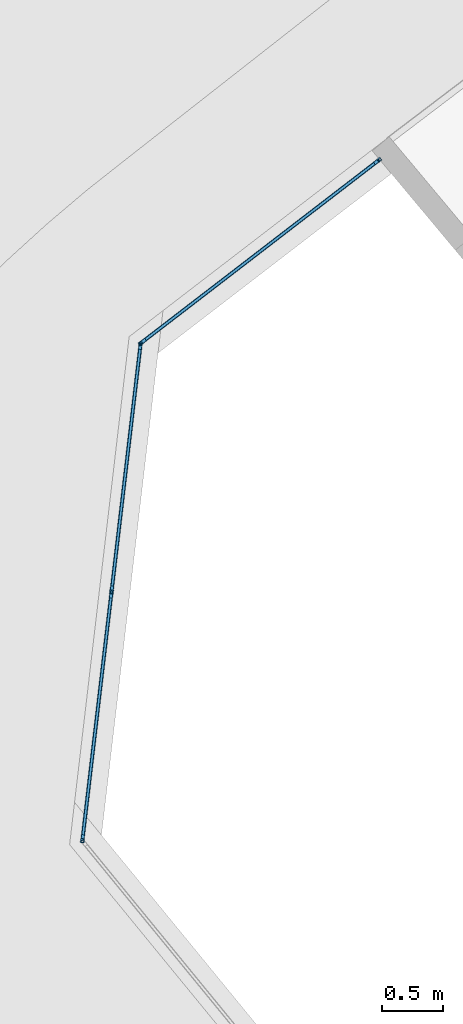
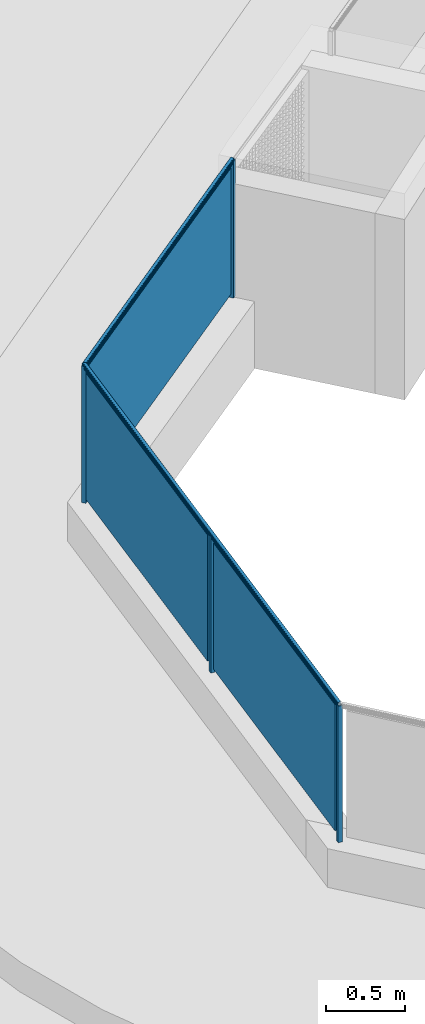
# One storey, part 27 of 75: 9 building element parts, 1 element without a shape of its own.
"""IFC4 building model written with IfcOpenShell, lengths in metres."""

from ifc_helpers import new_model, entity, si_unit, converted_unit, derived_unit, direction, frame, origin_with_axes, place, context, subcontext, project, spatial, polygons, material, type_object, element, aggregate, save


model = new_model("IFC4")

# Units and contexts
model_context = context("Model", 3, precision=1e-05, world=origin_with_axes(), true_north=direction((0.0, 1.0)))
body_context = subcontext(model_context, "Body", "Model", "MODEL_VIEW")
ifc_project = project(units=[si_unit("LENGTHUNIT", "METRE"), si_unit("AREAUNIT", "SQUARE_METRE"), si_unit("VOLUMEUNIT", "CUBIC_METRE"), converted_unit("PLANEANGLEUNIT", "DEGREE", entity("IfcPlaneAngleMeasure", 0.0174532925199), si_unit("PLANEANGLEUNIT", "RADIAN"), dimensions=[0, 0, 0, 0, 0, 0, 0]), converted_unit("TIMEUNIT", "Year", entity("IfcTimeMeasure", 31556926.0), si_unit("TIMEUNIT", "SECOND"), dimensions=[0, 0, 1, 0, 0, 0, 0]), si_unit("MASSUNIT", "GRAM", prefix="KILO"), si_unit("THERMODYNAMICTEMPERATUREUNIT", "DEGREE_CELSIUS"), si_unit("LUMINOUSINTENSITYUNIT", "LUMEN"), si_unit("ENERGYUNIT", "JOULE", prefix="MEGA"), derived_unit("THERMALCONDUCTANCEUNIT", [(si_unit("POWERUNIT", "WATT"), 1), (si_unit("LENGTHUNIT", "METRE"), -1), (si_unit("THERMODYNAMICTEMPERATUREUNIT", "KELVIN"), -1)]), derived_unit("SPECIFICHEATCAPACITYUNIT", [(si_unit("ENERGYUNIT", "JOULE"), 1), (si_unit("MASSUNIT", "GRAM", prefix="KILO"), -1), (si_unit("THERMODYNAMICTEMPERATUREUNIT", "KELVIN"), -1)]), derived_unit("MASSDENSITYUNIT", [(si_unit("MASSUNIT", "GRAM", prefix="KILO"), 1), (si_unit("VOLUMEUNIT", "CUBIC_METRE"), -1)])], contexts=[model_context])

# Site, building, storey
site_placement = place(None, frame((-0.00153261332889, -0.00661245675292, 0.0), z_axis=(0.0, 0.0, 1.0), x_axis=(1.0, 0.0, 0.0)))
site = spatial("IfcSite", under=ifc_project, at=site_placement, Name="Gelände", CompositionType="ELEMENT")
building_placement = place(site_placement, origin_with_axes())
building = spatial("IfcBuilding", under=site, at=building_placement, Name="Gebäude", CompositionType="ELEMENT")
storey_placement = place(building_placement, frame((0.0, 0.0, -0.22), z_axis=(0.0, 0.0, 1.0), x_axis=(1.0, 0.0, 0.0)))
storey = spatial("IfcBuildingStorey", under=building, at=storey_placement, Name="EG", CompositionType="ELEMENT", Elevation=-0.22)

# Railing, building element parts
railing_type = type_object("IfcRailingType", Name="Geländerart", PredefinedType="NOTDEFINED")
railing_placement = place(storey_placement, frame((-12.1608341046, 23.557810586, 0.523948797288), z_axis=(0.0, 0.0, 1.0), x_axis=(1.0, 0.0, 0.0)))
railing = element("IfcRailing", 1, at=railing_placement, inside=storey, type_object=railing_type, Name="Geländer - 001", PredefinedType="NOTDEFINED")
ifc_material_1 = material(Name="Aluminium")
building_element_part_1_placement = place(railing_placement, origin_with_axes())
building_element_part_1 = element("IfcBuildingElementPart", 2, at=building_element_part_1_placement, material=ifc_material_1, Name="Aluminium", PredefinedType="NOTDEFINED", context=body_context, shape_type="Tessellation", body=[
    polygons([(0.0399227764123, -0.076525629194, 0.0), (0.0582099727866, -0.10030752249, 0.0), (0.0582099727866, -0.10030752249, 1.06), (0.0399227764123, -0.076525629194, 1.06), (0.0637046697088, -0.0582384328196, 0.0), (0.0819918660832, -0.0820203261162, 0.0), (0.0469342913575, -0.0774414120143, 0.0), (0.059125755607, -0.0932960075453, 0.0), (0.074980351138, -0.0811045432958, 0.0), (0.0627888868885, -0.0652499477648, 0.0), (0.0819918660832, -0.0820203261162, 1.06), (0.0637046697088, -0.0582384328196, 1.06), (0.0469342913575, -0.0774414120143, 1.06), (0.0627888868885, -0.0652499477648, 1.06), (0.074980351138, -0.0811045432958, 1.06), (0.059125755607, -0.0932960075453, 1.06)], [[[1, 2, 3, 4]], [[1, 5, 6, 2], [7, 8, 9, 10]], [[2, 6, 11, 3]], [[4, 3, 11, 12], [13, 14, 15, 16]], [[5, 1, 4, 12]], [[6, 5, 12, 11]], [[8, 7, 13, 16]], [[9, 8, 16, 15]], [[10, 9, 15, 14]], [[7, 10, 14, 13]]], closed=True),
])
building_element_part_2_placement = place(railing_placement, origin_with_axes())
building_element_part_2 = element("IfcBuildingElementPart", 3, at=building_element_part_2_placement, material=ifc_material_1, Name="Aluminium", PredefinedType="NOTDEFINED", context=body_context, shape_type="Tessellation", body=[
    polygons([(-1.91102656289, -1.57671710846, 0.0), (-1.89273936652, -1.60049900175, 0.0), (-1.89273936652, -1.60049900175, 1.06), (-1.91102656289, -1.57671710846, 1.06), (-1.88724466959, -1.55842991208, 0.0), (-1.86895747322, -1.58221180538, 0.0), (-1.90401504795, -1.57763289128, 0.0), (-1.8918235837, -1.59348748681, 0.0), (-1.87596898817, -1.58129602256, 0.0), (-1.88816045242, -1.56544142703, 0.0), (-1.86895747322, -1.58221180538, 1.06), (-1.88724466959, -1.55842991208, 1.06), (-1.90401504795, -1.57763289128, 1.06), (-1.88816045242, -1.56544142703, 1.06), (-1.87596898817, -1.58129602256, 1.06), (-1.8918235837, -1.59348748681, 1.06)], [[[1, 2, 3, 4]], [[1, 5, 6, 2], [7, 8, 9, 10]], [[2, 6, 11, 3]], [[4, 3, 11, 12], [13, 14, 15, 16]], [[5, 1, 4, 12]], [[6, 5, 12, 11]], [[8, 7, 13, 16]], [[9, 8, 16, 15]], [[10, 9, 15, 14]], [[7, 10, 14, 13]]], closed=True),
])
building_element_part_3_placement = place(railing_placement, origin_with_axes())
building_element_part_3 = element("IfcBuildingElementPart", 4, at=building_element_part_3_placement, material=ifc_material_1, Name="Aluminium", PredefinedType="NOTDEFINED", context=body_context, shape_type="Tessellation", body=[
    polygons([(-2.38353869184, -5.66011663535, 0.0), (-2.35374279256, -5.66361011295, 0.0), (-2.35374279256, -5.66361011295, 1.06), (-2.38353869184, -5.66011663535, 1.06), (-2.38004521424, -5.63032073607, 0.0), (-2.35024931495, -5.63381421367, 0.0), (-2.37799046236, -5.6557328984, 0.0), (-2.3581265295, -5.65806188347, 0.0), (-2.35579754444, -5.63819795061, 0.0), (-2.37566147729, -5.63586896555, 0.0), (-2.35024931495, -5.63381421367, 1.06), (-2.38004521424, -5.63032073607, 1.06), (-2.37799046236, -5.6557328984, 1.06), (-2.37566147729, -5.63586896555, 1.06), (-2.35579754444, -5.63819795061, 1.06), (-2.3581265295, -5.65806188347, 1.06)], [[[1, 2, 3, 4]], [[1, 5, 6, 2], [7, 8, 9, 10]], [[2, 6, 11, 3]], [[4, 3, 11, 12], [13, 14, 15, 16]], [[5, 1, 4, 12]], [[6, 5, 12, 11]], [[8, 7, 13, 16]], [[9, 8, 16, 15]], [[10, 9, 15, 14]], [[7, 10, 14, 13]]], closed=True),
])
building_element_part_4_placement = place(railing_placement, origin_with_axes())
building_element_part_4 = element("IfcBuildingElementPart", 5, at=building_element_part_4_placement, material=ifc_material_1, Name="Aluminium", PredefinedType="NOTDEFINED", context=body_context, shape_type="Tessellation", body=[
    polygons([(0.0547792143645, -0.0712385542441, 1.07636363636), (0.054635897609, -0.0710521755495, 1.07634109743), (-1.899782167, -1.57391094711, 1.07634109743), (-1.89956020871, -1.57403685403, 1.07636363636), (0.0547792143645, -0.0712385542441, 1.07818181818), (0.0548168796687, -0.0712875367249, 1.07820551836), (0.0568268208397, -0.0739013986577, 1.0792391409), (0.0588658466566, -0.0765530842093, 1.07983921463), (0.0609184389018, -0.0792224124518, 1.08000117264), (0.0609573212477, -0.0792729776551, 1.08), (0.0609962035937, -0.0793235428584, 1.08000117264), (0.0630487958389, -0.0819928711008, 1.07983921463), (0.0650878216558, -0.0846445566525, 1.0792391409), (0.0670977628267, -0.0872584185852, 1.07820551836), (0.0671354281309, -0.0873074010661, 1.07818181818), (0.0671354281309, -0.087307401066, 1.07636363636), (0.0672787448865, -0.0874937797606, 1.07634109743), (0.067809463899, -0.0881839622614, 1.0761115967), (0.0683158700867, -0.0888425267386, 1.07565956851), (0.0687825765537, -0.0894494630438, 1.07499874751), (0.0691954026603, -0.0899863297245, 1.0741492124), (0.0695418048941, -0.0904368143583, 1.07313677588), (0.0698112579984, -0.0907872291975, 1.07199220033), (0.0699955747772, -0.0910269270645, 1.07075026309), (0.0700891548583, -0.091148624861, 1.06944869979), (0.0700891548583, -0.091148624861, 1.06812705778), (0.0699955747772, -0.0910269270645, 1.06682549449), (0.0698112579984, -0.0907872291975, 1.06558355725), (0.0695418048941, -0.0904368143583, 1.06443898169), (0.0691954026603, -0.0899863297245, 1.06342654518), (0.0687825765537, -0.0894494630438, 1.06257701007), (0.0683158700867, -0.0888425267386, 1.06191618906), (0.067809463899, -0.0881839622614, 1.06146416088), (0.0672787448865, -0.0874937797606, 1.06123466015), (0.0671354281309, -0.087307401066, 1.06121212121), (0.0671354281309, -0.0873074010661, 1.05818181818), (0.0670385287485, -0.0871813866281, 1.05810011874), (0.0665871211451, -0.0865943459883, 1.05758389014), (0.0661791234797, -0.0860637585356, 1.05688326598), (0.0658269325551, -0.0856057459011, 1.05601953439), (0.0655412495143, -0.085234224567, 1.05501893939), (0.0653307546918, -0.084960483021, 1.05391188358), (0.0652018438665, -0.0847928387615, 1.05273200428), (0.0651584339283, -0.0847363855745, 1.05151515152), (0.0652018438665, -0.0847928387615, 1.05029829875), (0.0653307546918, -0.084960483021, 1.04911841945), (0.0655412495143, -0.085234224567, 1.04801136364), (0.0658269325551, -0.0856057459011, 1.04701076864), (0.0661791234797, -0.0860637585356, 1.04614703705), (0.0665871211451, -0.0865943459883, 1.04544641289), (0.0670385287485, -0.0871813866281, 1.04493018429), (0.0671354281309, -0.0873074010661, 1.04484848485), (0.0671354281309, -0.0873074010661, 1.04), (0.0547792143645, -0.0712385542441, 1.04), (0.0547792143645, -0.0712385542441, 1.04484848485), (0.0548761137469, -0.071364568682, 1.04493018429), (0.0553275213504, -0.0719516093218, 1.04544641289), (0.0557355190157, -0.0724821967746, 1.04614703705), (0.0560877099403, -0.0729402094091, 1.04701076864), (0.0563733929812, -0.0733117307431, 1.04801136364), (0.0565838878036, -0.0735854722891, 1.04911841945), (0.056712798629, -0.0737531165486, 1.05029829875), (0.0567562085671, -0.0738095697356, 1.05151515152), (0.056712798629, -0.0737531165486, 1.05273200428), (0.0565838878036, -0.0735854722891, 1.05391188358), (0.0563733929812, -0.0733117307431, 1.05501893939), (0.0560877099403, -0.0729402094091, 1.05601953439), (0.0557355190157, -0.0724821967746, 1.05688326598), (0.0553275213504, -0.0719516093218, 1.05758389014), (0.0548761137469, -0.071364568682, 1.05810011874), (0.0547792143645, -0.0712385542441, 1.05818181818), (0.0547792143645, -0.0712385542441, 1.06121212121), (0.054635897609, -0.0710521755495, 1.06123466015), (0.0541051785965, -0.0703619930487, 1.06146416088), (0.0535987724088, -0.0697034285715, 1.06191618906), (0.0531320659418, -0.0690964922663, 1.06257701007), (0.0527192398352, -0.0685596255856, 1.06342654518), (0.0523728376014, -0.0681091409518, 1.06443898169), (0.052103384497, -0.0677587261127, 1.06558355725), (0.0519190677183, -0.0675190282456, 1.06682549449), (0.0518254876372, -0.0673973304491, 1.06812705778), (0.0518254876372, -0.0673973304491, 1.06944869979), (0.0519190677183, -0.0675190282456, 1.07075026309), (0.052103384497, -0.0677587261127, 1.07199220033), (0.0523728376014, -0.0681091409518, 1.07313677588), (0.0527192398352, -0.0685596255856, 1.0741492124), (0.0531320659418, -0.0690964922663, 1.07499874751), (0.0535987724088, -0.0697034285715, 1.07565956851), (0.0541051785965, -0.0703619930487, 1.0761115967), (-1.90060410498, -1.57344469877, 1.0761115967), (-1.90138838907, -1.57299980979, 1.07565956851), (-1.9021111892, -1.57258979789, 1.07499874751), (-1.90275054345, -1.57222712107, 1.0741492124), (-1.90328702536, -1.57192279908, 1.07313677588), (-1.90370433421, -1.57168607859, 1.07199220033), (-1.90398979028, -1.57152415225, 1.07075026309), (-1.90413472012, -1.57144194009, 1.06944869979), (-1.90413472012, -1.57144194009, 1.06812705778), (-1.90398979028, -1.57152415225, 1.06682549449), (-1.90370433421, -1.57168607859, 1.06558355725), (-1.90328702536, -1.57192279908, 1.06443898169), (-1.90275054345, -1.57222712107, 1.06342654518), (-1.9021111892, -1.57258979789, 1.06257701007), (-1.90138838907, -1.57299980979, 1.06191618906), (-1.90060410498, -1.57344469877, 1.06146416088), (-1.899782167, -1.57391094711, 1.06123466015), (-1.89956020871, -1.57403685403, 1.06121212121), (-1.89956020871, -1.57403685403, 1.05818181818), (-1.89941013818, -1.57412198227, 1.05810011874), (-1.89871103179, -1.57451855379, 1.05758389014), (-1.89807915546, -1.57487698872, 1.05688326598), (-1.89753370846, -1.5751863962, 1.05601953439), (-1.89709126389, -1.57543737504, 1.05501893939), (-1.89676526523, -1.57562229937, 1.05391188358), (-1.89656561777, -1.57573555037, 1.05273200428), (-1.8964983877, -1.57577368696, 1.05151515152), (-1.89656561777, -1.57573555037, 1.05029829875), (-1.89676526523, -1.57562229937, 1.04911841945), (-1.89709126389, -1.57543737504, 1.04801136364), (-1.89753370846, -1.5751863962, 1.04701076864), (-1.89807915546, -1.57487698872, 1.04614703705), (-1.89871103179, -1.57451855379, 1.04544641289), (-1.89941013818, -1.57412198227, 1.04493018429), (-1.89956020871, -1.57403685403, 1.04484848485), (-1.89956020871, -1.57403685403, 1.04), (-1.88042382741, -1.58489205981, 1.04), (-1.88042382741, -1.58489205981, 1.04484848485), (-1.88057389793, -1.58480693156, 1.04493018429), (-1.88127300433, -1.58441036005, 1.04544641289), (-1.88190488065, -1.58405192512, 1.04614703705), (-1.88245032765, -1.58374251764, 1.04701076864), (-1.88289277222, -1.5834915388, 1.04801136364), (-1.88321877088, -1.58330661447, 1.04911841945), (-1.88341841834, -1.58319336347, 1.05029829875), (-1.88348564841, -1.58315522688, 1.05151515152), (-1.88341841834, -1.58319336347, 1.05273200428), (-1.88321877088, -1.58330661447, 1.05391188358), (-1.88289277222, -1.5834915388, 1.05501893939), (-1.88245032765, -1.58374251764, 1.05601953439), (-1.88190488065, -1.58405192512, 1.05688326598), (-1.88127300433, -1.58441036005, 1.05758389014), (-1.88057389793, -1.58480693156, 1.05810011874), (-1.88042382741, -1.58489205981, 1.05818181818), (-1.88042382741, -1.58489205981, 1.06121212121), (-1.88020186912, -1.58501796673, 1.06123466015), (-1.87937993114, -1.58548421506, 1.06146416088), (-1.87859564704, -1.58592910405, 1.06191618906), (-1.87787284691, -1.58633911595, 1.06257701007), (-1.87723349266, -1.58670179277, 1.06342654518), (-1.87669701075, -1.58700611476, 1.06443898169), (-1.8762797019, -1.58724283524, 1.06558355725), (-1.87599424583, -1.58740476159, 1.06682549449), (-1.87584931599, -1.58748697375, 1.06812705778), (-1.87584931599, -1.58748697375, 1.06944869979), (-1.87599424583, -1.58740476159, 1.07075026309), (-1.8762797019, -1.58724283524, 1.07199220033), (-1.87669701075, -1.58700611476, 1.07313677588), (-1.87723349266, -1.58670179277, 1.0741492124), (-1.87787284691, -1.58633911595, 1.07499874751), (-1.87859564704, -1.58592910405, 1.07565956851), (-1.87937993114, -1.58548421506, 1.0761115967), (-1.88020186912, -1.58501796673, 1.07634109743), (-1.88042382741, -1.58489205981, 1.07636363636), (-1.88042382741, -1.58489205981, 1.07818181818), (-1.88048216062, -1.58485897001, 1.07820551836), (-1.88359500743, -1.58309319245, 1.0792391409), (-1.88675289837, -1.58130186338, 1.07983921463), (-1.88993179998, -1.57949861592, 1.08000117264), (-1.88999201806, -1.57946445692, 1.08), (-1.89005223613, -1.57943029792, 1.08000117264), (-1.89323113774, -1.57762705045, 1.07983921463), (-1.89638902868, -1.57583572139, 1.0792391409), (-1.89950187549, -1.57406994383, 1.07820551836), (-1.89956020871, -1.57403685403, 1.07818181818)], [[[1, 2, 3, 4]], [[1, 5, 6, 7, 8, 9, 10, 11, 12, 13, 14, 15, 16, 17, 18, 19, 20, 21, 22, 23, 24, 25, 26, 27, 28, 29, 30, 31, 32, 33, 34, 35, 36, 37, 38, 39, 40, 41, 42, 43, 44, 45, 46, 47, 48, 49, 50, 51, 52, 53, 54, 55, 56, 57, 58, 59, 60, 61, 62, 63, 64, 65, 66, 67, 68, 69, 70, 71, 72, 73, 74, 75, 76, 77, 78, 79, 80, 81, 82, 83, 84, 85, 86, 87, 88, 89, 2]], [[2, 89, 90, 3]], [[4, 3, 90, 91, 92, 93, 94, 95, 96, 97, 98, 99, 100, 101, 102, 103, 104, 105, 106, 107, 108, 109, 110, 111, 112, 113, 114, 115, 116, 117, 118, 119, 120, 121, 122, 123, 124, 125, 126, 127, 128, 129, 130, 131, 132, 133, 134, 135, 136, 137, 138, 139, 140, 141, 142, 143, 144, 145, 146, 147, 148, 149, 150, 151, 152, 153, 154, 155, 156, 157, 158, 159, 160, 161, 162, 163, 164, 165, 166, 167, 168, 169, 170, 171, 172, 173, 174]], [[5, 1, 4, 174]], [[6, 5, 174, 173]], [[7, 6, 173, 172]], [[8, 7, 172, 171]], [[9, 8, 171, 170]], [[10, 9, 170, 169]], [[11, 10, 169, 168]], [[12, 11, 168, 167]], [[13, 12, 167, 166]], [[14, 13, 166, 165]], [[15, 14, 165, 164]], [[16, 15, 164, 163]], [[17, 16, 163, 162]], [[18, 17, 162, 161]], [[19, 18, 161, 160]], [[20, 19, 160, 159]], [[21, 20, 159, 158]], [[22, 21, 158, 157]], [[23, 22, 157, 156]], [[24, 23, 156, 155]], [[25, 24, 155, 154]], [[26, 25, 154, 153]], [[27, 26, 153, 152]], [[28, 27, 152, 151]], [[29, 28, 151, 150]], [[30, 29, 150, 149]], [[31, 30, 149, 148]], [[32, 31, 148, 147]], [[33, 32, 147, 146]], [[34, 33, 146, 145]], [[35, 34, 145, 144]], [[36, 35, 144, 143]], [[37, 36, 143, 142]], [[38, 37, 142, 141]], [[39, 38, 141, 140]], [[40, 39, 140, 139]], [[41, 40, 139, 138]], [[42, 41, 138, 137]], [[43, 42, 137, 136]], [[44, 43, 136, 135]], [[45, 44, 135, 134]], [[46, 45, 134, 133]], [[47, 46, 133, 132]], [[48, 47, 132, 131]], [[49, 48, 131, 130]], [[50, 49, 130, 129]], [[51, 50, 129, 128]], [[52, 51, 128, 127]], [[53, 52, 127, 126]], [[54, 53, 126, 125]], [[55, 54, 125, 124]], [[56, 55, 124, 123]], [[57, 56, 123, 122]], [[58, 57, 122, 121]], [[59, 58, 121, 120]], [[60, 59, 120, 119]], [[61, 60, 119, 118]], [[62, 61, 118, 117]], [[63, 62, 117, 116]], [[64, 63, 116, 115]], [[65, 64, 115, 114]], [[66, 65, 114, 113]], [[67, 66, 113, 112]], [[68, 67, 112, 111]], [[69, 68, 111, 110]], [[70, 69, 110, 109]], [[71, 70, 109, 108]], [[72, 71, 108, 107]], [[73, 72, 107, 106]], [[74, 73, 106, 105]], [[75, 74, 105, 104]], [[76, 75, 104, 103]], [[77, 76, 103, 102]], [[78, 77, 102, 101]], [[79, 78, 101, 100]], [[80, 79, 100, 99]], [[81, 80, 99, 98]], [[82, 81, 98, 97]], [[83, 82, 97, 96]], [[84, 83, 96, 95]], [[85, 84, 95, 94]], [[86, 85, 94, 93]], [[87, 86, 93, 92]], [[88, 87, 92, 91]], [[89, 88, 91, 90]]], closed=True),
])
ifc_material_2 = material(Name="Zaun")
building_element_part_5_placement = place(railing_placement, origin_with_axes())
building_element_part_5 = element("IfcBuildingElementPart", 6, at=building_element_part_5_placement, material=ifc_material_2, Name="Zaun", PredefinedType="NOTDEFINED", context=body_context, shape_type="Tessellation", body=[
    polygons([(-1.8442597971, -1.55691309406, 0.05), (0.027416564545, -0.117678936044, 0.05), (0.027416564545, -0.117678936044, 1.03), (-1.8442597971, -1.55691309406, 1.03), (0.0152251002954, -0.101824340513, 0.05), (-1.85645126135, -1.54105849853, 0.05), (0.0152251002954, -0.101824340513, 1.03), (-1.85645126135, -1.54105849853, 1.03)], [[[1, 2, 3, 4]], [[5, 2, 1, 6]], [[7, 3, 2, 5]], [[4, 3, 7, 8]], [[1, 4, 8, 6]], [[7, 5, 6, 8]]], closed=True),
])
building_element_part_6_placement = place(railing_placement, origin_with_axes())
building_element_part_6 = element("IfcBuildingElementPart", 7, at=building_element_part_6_placement, material=ifc_material_1, Name="Aluminium", PredefinedType="NOTDEFINED", context=body_context, shape_type="Tessellation", body=[
    polygons([(-1.89956020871, -1.57403685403, 1.07636363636), (-1.899782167, -1.57391094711, 1.07634109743), (-2.37770623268, -5.65012924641, 1.07634109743), (-2.3774611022, -5.65005751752, 1.07636363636), (-1.89956020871, -1.57403685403, 1.07818181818), (-1.89950187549, -1.57406994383, 1.07820551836), (-1.89638902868, -1.57583572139, 1.0792391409), (-1.89323113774, -1.57762705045, 1.07983921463), (-1.89005223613, -1.57943029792, 1.08000117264), (-1.88999201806, -1.57946445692, 1.08), (-1.88993179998, -1.57949861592, 1.08000117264), (-1.88675289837, -1.58130186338, 1.07983921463), (-1.88359500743, -1.58309319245, 1.0792391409), (-1.88048216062, -1.58485897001, 1.07820551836), (-1.88042382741, -1.58489205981, 1.07818181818), (-1.88042382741, -1.58489205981, 1.07636363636), (-1.88020186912, -1.58501796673, 1.07634109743), (-1.87937993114, -1.58548421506, 1.0761115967), (-1.87859564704, -1.58592910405, 1.07565956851), (-1.87787284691, -1.58633911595, 1.07499874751), (-1.87723349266, -1.58670179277, 1.0741492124), (-1.87669701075, -1.58700611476, 1.07313677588), (-1.8762797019, -1.58724283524, 1.07199220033), (-1.87599424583, -1.58740476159, 1.07075026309), (-1.87584931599, -1.58748697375, 1.06944869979), (-1.87584931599, -1.58748697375, 1.06812705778), (-1.87599424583, -1.58740476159, 1.06682549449), (-1.8762797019, -1.58724283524, 1.06558355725), (-1.87669701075, -1.58700611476, 1.06443898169), (-1.87723349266, -1.58670179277, 1.06342654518), (-1.87787284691, -1.58633911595, 1.06257701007), (-1.87859564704, -1.58592910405, 1.06191618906), (-1.87937993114, -1.58548421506, 1.06146416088), (-1.88020186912, -1.58501796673, 1.06123466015), (-1.88042382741, -1.58489205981, 1.06121212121), (-1.88042382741, -1.58489205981, 1.05818181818), (-1.88057389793, -1.58480693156, 1.05810011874), (-1.88127300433, -1.58441036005, 1.05758389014), (-1.88190488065, -1.58405192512, 1.05688326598), (-1.88245032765, -1.58374251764, 1.05601953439), (-1.88289277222, -1.5834915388, 1.05501893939), (-1.88321877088, -1.58330661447, 1.05391188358), (-1.88341841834, -1.58319336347, 1.05273200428), (-1.88348564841, -1.58315522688, 1.05151515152), (-1.88341841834, -1.58319336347, 1.05029829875), (-1.88321877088, -1.58330661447, 1.04911841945), (-1.88289277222, -1.5834915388, 1.04801136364), (-1.88245032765, -1.58374251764, 1.04701076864), (-1.88190488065, -1.58405192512, 1.04614703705), (-1.88127300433, -1.58441036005, 1.04544641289), (-1.88057389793, -1.58480693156, 1.04493018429), (-1.88042382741, -1.58489205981, 1.04484848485), (-1.88042382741, -1.58489205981, 1.04), (-1.89956020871, -1.57403685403, 1.04), (-1.89956020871, -1.57403685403, 1.04484848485), (-1.89941013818, -1.57412198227, 1.04493018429), (-1.89871103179, -1.57451855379, 1.04544641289), (-1.89807915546, -1.57487698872, 1.04614703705), (-1.89753370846, -1.5751863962, 1.04701076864), (-1.89709126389, -1.57543737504, 1.04801136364), (-1.89676526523, -1.57562229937, 1.04911841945), (-1.89656561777, -1.57573555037, 1.05029829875), (-1.8964983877, -1.57577368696, 1.05151515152), (-1.89656561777, -1.57573555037, 1.05273200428), (-1.89676526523, -1.57562229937, 1.05391188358), (-1.89709126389, -1.57543737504, 1.05501893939), (-1.89753370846, -1.5751863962, 1.05601953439), (-1.89807915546, -1.57487698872, 1.05688326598), (-1.89871103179, -1.57451855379, 1.05758389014), (-1.89941013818, -1.57412198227, 1.05810011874), (-1.89956020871, -1.57403685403, 1.05818181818), (-1.89956020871, -1.57403685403, 1.06121212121), (-1.899782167, -1.57391094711, 1.06123466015), (-1.90060410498, -1.57344469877, 1.06146416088), (-1.90138838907, -1.57299980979, 1.06191618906), (-1.9021111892, -1.57258979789, 1.06257701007), (-1.90275054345, -1.57222712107, 1.06342654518), (-1.90328702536, -1.57192279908, 1.06443898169), (-1.90370433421, -1.57168607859, 1.06558355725), (-1.90398979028, -1.57152415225, 1.06682549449), (-1.90413472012, -1.57144194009, 1.06812705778), (-1.90413472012, -1.57144194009, 1.06944869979), (-1.90398979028, -1.57152415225, 1.07075026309), (-1.90370433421, -1.57168607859, 1.07199220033), (-1.90328702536, -1.57192279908, 1.07313677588), (-1.90275054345, -1.57222712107, 1.0741492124), (-1.9021111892, -1.57258979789, 1.07499874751), (-1.90138838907, -1.57299980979, 1.07565956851), (-1.90060410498, -1.57344469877, 1.0761115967), (-2.37861398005, -5.65039486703, 1.0761115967), (-2.3794801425, -5.65064831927, 1.07565956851), (-2.38027840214, -5.65088190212, 1.07499874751), (-2.38098450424, -5.65108851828, 1.0741492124), (-2.38157699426, -5.65126188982, 1.07313677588), (-2.38203786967, -5.65139674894, 1.07199220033), (-2.38235312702, -5.65148899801, 1.07075026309), (-2.38251318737, -5.6515358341, 1.06944869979), (-2.38251318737, -5.6515358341, 1.06812705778), (-2.38235312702, -5.65148899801, 1.06682549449), (-2.38203786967, -5.65139674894, 1.06558355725), (-2.38157699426, -5.65126188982, 1.06443898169), (-2.38098450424, -5.65108851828, 1.06342654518), (-2.38027840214, -5.65088190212, 1.06257701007), (-2.3794801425, -5.65064831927, 1.06191618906), (-2.37861398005, -5.65039486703, 1.06146416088), (-2.37770623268, -5.65012924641, 1.06123466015), (-2.3774611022, -5.65005751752, 1.06121212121), (-2.3774611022, -5.65005751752, 1.05818181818), (-2.37729536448, -5.65000902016, 1.05810011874), (-2.37652327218, -5.64978309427, 1.05758389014), (-2.3758254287, -5.64957889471, 1.05688326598), (-2.37522303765, -5.64940262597, 1.05601953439), (-2.37473440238, -5.64925964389, 1.05501893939), (-2.37437436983, -5.64915429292, 1.05391188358), (-2.3741538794, -5.64908977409, 1.05273200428), (-2.37407963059, -5.64906804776, 1.05151515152), (-2.3741538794, -5.64908977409, 1.05029829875), (-2.37437436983, -5.64915429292, 1.04911841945), (-2.37473440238, -5.64925964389, 1.04801136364), (-2.37522303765, -5.64940262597, 1.04701076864), (-2.3758254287, -5.64957889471, 1.04614703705), (-2.37652327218, -5.64978309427, 1.04544641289), (-2.37729536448, -5.65000902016, 1.04493018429), (-2.3774611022, -5.65005751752, 1.04484848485), (-2.3774611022, -5.65005751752, 1.04), (-2.35632690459, -5.64387333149, 1.04), (-2.35632690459, -5.64387333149, 1.04484848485), (-2.35649264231, -5.64392182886, 1.04493018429), (-2.35726473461, -5.64414775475, 1.04544641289), (-2.3579625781, -5.64435195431, 1.04614703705), (-2.35856496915, -5.64452822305, 1.04701076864), (-2.35905360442, -5.64467120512, 1.04801136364), (-2.35941363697, -5.6447765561, 1.04911841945), (-2.3596341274, -5.64484107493, 1.05029829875), (-2.35970837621, -5.64486280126, 1.05151515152), (-2.3596341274, -5.64484107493, 1.05273200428), (-2.35941363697, -5.6447765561, 1.05391188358), (-2.35905360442, -5.64467120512, 1.05501893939), (-2.35856496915, -5.64452822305, 1.05601953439), (-2.3579625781, -5.64435195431, 1.05688326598), (-2.35726473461, -5.64414775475, 1.05758389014), (-2.35649264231, -5.64392182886, 1.05810011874), (-2.35632690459, -5.64387333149, 1.05818181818), (-2.35632690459, -5.64387333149, 1.06121212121), (-2.35608177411, -5.64380160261, 1.06123466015), (-2.35517402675, -5.64353598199, 1.06146416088), (-2.35430786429, -5.64328252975, 1.06191618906), (-2.35350960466, -5.6430489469, 1.06257701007), (-2.35280350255, -5.64284233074, 1.06342654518), (-2.35221101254, -5.6426689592, 1.06443898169), (-2.35175013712, -5.64253410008, 1.06558355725), (-2.35143487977, -5.642441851, 1.06682549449), (-2.35127481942, -5.64239501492, 1.06812705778), (-2.35127481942, -5.64239501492, 1.06944869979), (-2.35143487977, -5.642441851, 1.07075026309), (-2.35175013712, -5.64253410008, 1.07199220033), (-2.35221101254, -5.6426689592, 1.07313677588), (-2.35280350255, -5.64284233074, 1.0741492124), (-2.35350960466, -5.6430489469, 1.07499874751), (-2.35430786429, -5.64328252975, 1.07565956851), (-2.35517402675, -5.64353598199, 1.0761115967), (-2.35608177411, -5.64380160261, 1.07634109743), (-2.35632690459, -5.64387333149, 1.07636363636), (-2.35632690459, -5.64387333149, 1.07818181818), (-2.35639132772, -5.64389218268, 1.07820551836), (-2.35982915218, -5.64489814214, 1.0792391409), (-2.36331672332, -5.64591865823, 1.07983921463), (-2.36682749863, -5.64694596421, 1.08000117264), (-2.3668940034, -5.64696542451, 1.08), (-2.36696050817, -5.64698488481, 1.08000117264), (-2.37047128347, -5.64801219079, 1.07983921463), (-2.37395885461, -5.64903270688, 1.0792391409), (-2.37739667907, -5.65003866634, 1.07820551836), (-2.3774611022, -5.65005751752, 1.07818181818)], [[[1, 2, 3, 4]], [[1, 5, 6, 7, 8, 9, 10, 11, 12, 13, 14, 15, 16, 17, 18, 19, 20, 21, 22, 23, 24, 25, 26, 27, 28, 29, 30, 31, 32, 33, 34, 35, 36, 37, 38, 39, 40, 41, 42, 43, 44, 45, 46, 47, 48, 49, 50, 51, 52, 53, 54, 55, 56, 57, 58, 59, 60, 61, 62, 63, 64, 65, 66, 67, 68, 69, 70, 71, 72, 73, 74, 75, 76, 77, 78, 79, 80, 81, 82, 83, 84, 85, 86, 87, 88, 89, 2]], [[2, 89, 90, 3]], [[4, 3, 90, 91, 92, 93, 94, 95, 96, 97, 98, 99, 100, 101, 102, 103, 104, 105, 106, 107, 108, 109, 110, 111, 112, 113, 114, 115, 116, 117, 118, 119, 120, 121, 122, 123, 124, 125, 126, 127, 128, 129, 130, 131, 132, 133, 134, 135, 136, 137, 138, 139, 140, 141, 142, 143, 144, 145, 146, 147, 148, 149, 150, 151, 152, 153, 154, 155, 156, 157, 158, 159, 160, 161, 162, 163, 164, 165, 166, 167, 168, 169, 170, 171, 172, 173, 174]], [[5, 1, 4, 174]], [[6, 5, 174, 173]], [[7, 6, 173, 172]], [[8, 7, 172, 171]], [[9, 8, 171, 170]], [[10, 9, 170, 169]], [[11, 10, 169, 168]], [[12, 11, 168, 167]], [[13, 12, 167, 166]], [[14, 13, 166, 165]], [[15, 14, 165, 164]], [[16, 15, 164, 163]], [[17, 16, 163, 162]], [[18, 17, 162, 161]], [[19, 18, 161, 160]], [[20, 19, 160, 159]], [[21, 20, 159, 158]], [[22, 21, 158, 157]], [[23, 22, 157, 156]], [[24, 23, 156, 155]], [[25, 24, 155, 154]], [[26, 25, 154, 153]], [[27, 26, 153, 152]], [[28, 27, 152, 151]], [[29, 28, 151, 150]], [[30, 29, 150, 149]], [[31, 30, 149, 148]], [[32, 31, 148, 147]], [[33, 32, 147, 146]], [[34, 33, 146, 145]], [[35, 34, 145, 144]], [[36, 35, 144, 143]], [[37, 36, 143, 142]], [[38, 37, 142, 141]], [[39, 38, 141, 140]], [[40, 39, 140, 139]], [[41, 40, 139, 138]], [[42, 41, 138, 137]], [[43, 42, 137, 136]], [[44, 43, 136, 135]], [[45, 44, 135, 134]], [[46, 45, 134, 133]], [[47, 46, 133, 132]], [[48, 47, 132, 131]], [[49, 48, 131, 130]], [[50, 49, 130, 129]], [[51, 50, 129, 128]], [[52, 51, 128, 127]], [[53, 52, 127, 126]], [[54, 53, 126, 125]], [[55, 54, 125, 124]], [[56, 55, 124, 123]], [[57, 56, 123, 122]], [[58, 57, 122, 121]], [[59, 58, 121, 120]], [[60, 59, 120, 119]], [[61, 60, 119, 118]], [[62, 61, 118, 117]], [[63, 62, 117, 116]], [[64, 63, 116, 115]], [[65, 64, 115, 114]], [[66, 65, 114, 113]], [[67, 66, 113, 112]], [[68, 67, 112, 111]], [[69, 68, 111, 110]], [[70, 69, 110, 109]], [[71, 70, 109, 108]], [[72, 71, 108, 107]], [[73, 72, 107, 106]], [[74, 73, 106, 105]], [[75, 74, 105, 104]], [[76, 75, 104, 103]], [[77, 76, 103, 102]], [[78, 77, 102, 101]], [[79, 78, 101, 100]], [[80, 79, 100, 99]], [[81, 80, 99, 98]], [[82, 81, 98, 97]], [[83, 82, 97, 96]], [[84, 83, 96, 95]], [[85, 84, 95, 94]], [[86, 85, 94, 93]], [[87, 86, 93, 92]], [[88, 87, 92, 91]], [[89, 88, 91, 90]]], closed=True),
])
building_element_part_7_placement = place(railing_placement, origin_with_axes())
building_element_part_7 = element("IfcBuildingElementPart", 8, at=building_element_part_7_placement, material=ifc_material_2, Name="Zaun", PredefinedType="NOTDEFINED", context=body_context, shape_type="Tessellation", body=[
    polygons([(-2.11268858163, -3.5647196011, 0.05), (-1.8858825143, -1.6302887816, 0.05), (-1.8858825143, -1.6302887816, 1.03), (-2.11268858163, -3.5647196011, 1.03), (-1.90574644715, -1.62795979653, 0.05), (-2.13255251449, -3.56239061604, 0.05), (-1.90574644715, -1.62795979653, 1.03), (-2.13255251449, -3.56239061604, 1.03)], [[[1, 2, 3, 4]], [[5, 2, 1, 6]], [[7, 3, 2, 5]], [[4, 3, 7, 8]], [[1, 4, 8, 6]], [[7, 5, 6, 8]]], closed=True),
])
building_element_part_8_placement = place(railing_placement, origin_with_axes())
building_element_part_8 = element("IfcBuildingElementPart", 9, at=building_element_part_8_placement, material=ifc_material_1, Name="Aluminium", PredefinedType="NOTDEFINED", context=body_context, shape_type="Tessellation", body=[
    polygons([(-2.14508769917, -3.62636615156, 0.0), (-2.11529179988, -3.62985962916, 0.0), (-2.11529179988, -3.62985962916, 1.06), (-2.14508769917, -3.62636615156, 1.06), (-2.14159422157, -3.59657025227, 0.0), (-2.11179832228, -3.60006372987, 0.0), (-2.13953946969, -3.62198241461, 0.0), (-2.11967553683, -3.62431139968, 0.0), (-2.11734655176, -3.60444746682, 0.0), (-2.13721048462, -3.60211848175, 0.0), (-2.11179832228, -3.60006372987, 1.06), (-2.14159422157, -3.59657025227, 1.06), (-2.13953946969, -3.62198241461, 1.06), (-2.13721048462, -3.60211848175, 1.06), (-2.11734655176, -3.60444746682, 1.06), (-2.11967553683, -3.62431139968, 1.06)], [[[1, 2, 3, 4]], [[1, 5, 6, 2], [7, 8, 9, 10]], [[2, 6, 11, 3]], [[4, 3, 11, 12], [13, 14, 15, 16]], [[5, 1, 4, 12]], [[6, 5, 12, 11]], [[8, 7, 13, 16]], [[9, 8, 16, 15]], [[10, 9, 15, 14]], [[7, 10, 14, 13]]], closed=True),
])
building_element_part_9_placement = place(railing_placement, origin_with_axes())
building_element_part_9 = element("IfcBuildingElementPart", 10, at=building_element_part_9_placement, material=ifc_material_2, Name="Zaun", PredefinedType="NOTDEFINED", context=body_context, shape_type="Tessellation", body=[
    polygons([(-2.3511395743, -5.5984700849, 0.05), (-2.12433350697, -3.66403926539, 0.05), (-2.12433350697, -3.66403926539, 1.03), (-2.3511395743, -5.5984700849, 1.03), (-2.14419743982, -3.66171028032, 0.05), (-2.37100350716, -5.59614109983, 0.05), (-2.14419743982, -3.66171028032, 1.03), (-2.37100350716, -5.59614109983, 1.03)], [[[1, 2, 3, 4]], [[5, 2, 1, 6]], [[7, 3, 2, 5]], [[4, 3, 7, 8]], [[1, 4, 8, 6]], [[7, 5, 6, 8]]], closed=True),
])
aggregate(railing, [building_element_part_1, building_element_part_2, building_element_part_3, building_element_part_4, building_element_part_5, building_element_part_6, building_element_part_7, building_element_part_8, building_element_part_9])

save(model, "model.ifc")
